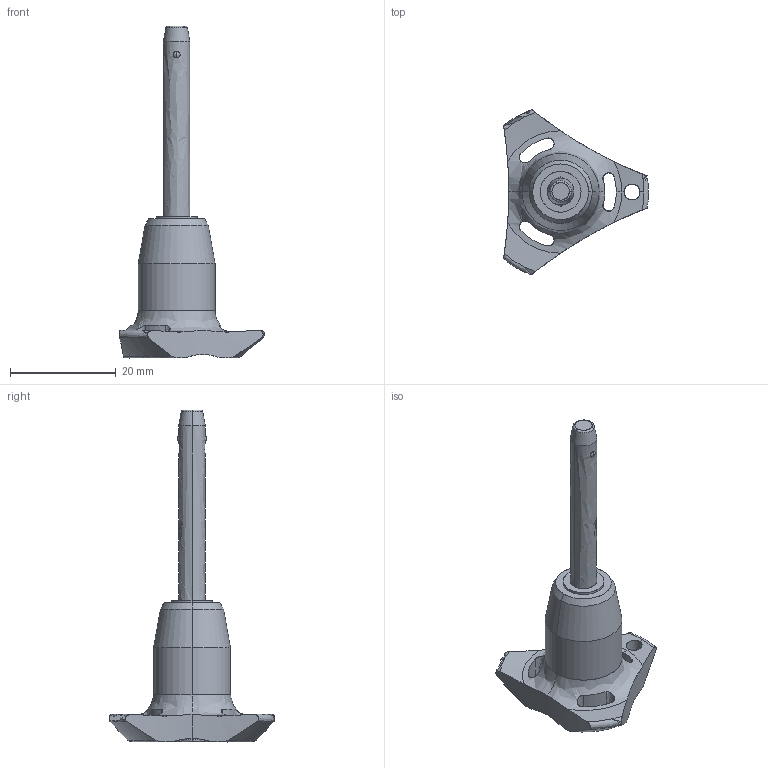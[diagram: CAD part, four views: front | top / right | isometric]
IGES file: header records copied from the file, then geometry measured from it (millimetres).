
Start section: SolidWorks IGES file using analytic representation for surfaces
Global section: file name: C:\Users\ianosborn\Desktop\QR1724_v2\QR1724_v2_20251112_IGES\QR1724.M05-030-S.igs; native system: SolidWorks 2019; preprocessor: SolidWorks 2019; author: IanOsborn; date: 251112.124141; units: millimetre
Bounding box: 27.4 x 31.31 x 62.7 mm (x, y, z)
Surface area: 2979.6 mm2 (no closed solid volume)
Topology: 0 solids, 0 shells, 66 faces, 1227 edges, 1208 vertices
Faces by surface type: revolution 50, bspline 16
